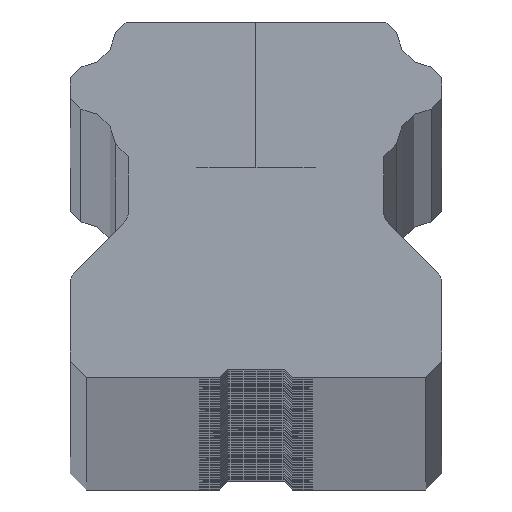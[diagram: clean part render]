
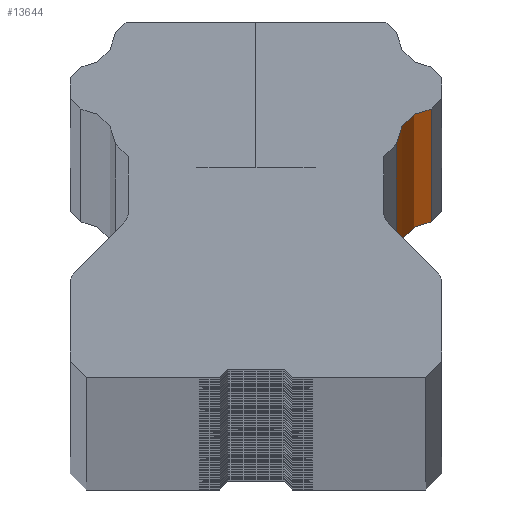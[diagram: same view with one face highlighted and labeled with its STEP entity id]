
A CAD part, top view. The second image highlights one B-rep face of the part: STEP entity #13644.
In plain terms, the highlighted cylindrical face has radius 2.3 mm (diameter 4.6 mm), a partial arc.
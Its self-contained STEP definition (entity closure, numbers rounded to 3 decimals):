
#105 = CARTESIAN_POINT ( 'NONE',  ( 11.68, 2.578, 2000. ) ) ;
#828 = CARTESIAN_POINT ( 'NONE',  ( 11.536, 4.873, -2000. ) ) ;
#853 = DIRECTION ( 'NONE',  ( 1., 0., 0. ) ) ;
#1836 = CARTESIAN_POINT ( 'NONE',  ( 11.536, 4.873, 2000. ) ) ;
#2323 = EDGE_LOOP ( 'NONE', ( #10622, #16834, #10240, #19731 ) ) ;
#3037 = CIRCLE ( 'NONE', #18007, 2.3 ) ;
#3547 = AXIS2_PLACEMENT_3D ( 'NONE', #18817, #6781, #9538 ) ;
#3830 = VERTEX_POINT ( 'NONE', #19337 ) ;
#4689 = EDGE_CURVE ( 'NONE', #13426, #6715, #5508, .T. ) ;
#4815 = CARTESIAN_POINT ( 'NONE',  ( 9.384, 2.722, -2000. ) ) ;
#5382 = EDGE_CURVE ( 'NONE', #6715, #10517, #3037, .T. ) ;
#5508 = LINE ( 'NONE', #17939, #19603 ) ;
#5926 = DIRECTION ( 'NONE',  ( -1., 0., 0. ) ) ;
#6715 = VERTEX_POINT ( 'NONE', #4815 ) ;
#6781 = DIRECTION ( 'NONE',  ( 0., 0., -1. ) ) ;
#7546 = FACE_OUTER_BOUND ( 'NONE', #2323, .T. ) ;
#7739 = DIRECTION ( 'NONE',  ( 0., 0., -1. ) ) ;
#9538 = DIRECTION ( 'NONE',  ( 1., 0., 0. ) ) ;
#9638 = AXIS2_PLACEMENT_3D ( 'NONE', #105, #13769, #5926 ) ;
#10132 = CARTESIAN_POINT ( 'NONE',  ( 11.68, 2.578, -2000. ) ) ;
#10240 = ORIENTED_EDGE ( 'NONE', *, *, #17640, .F. ) ;
#10517 = VERTEX_POINT ( 'NONE', #828 ) ;
#10622 = ORIENTED_EDGE ( 'NONE', *, *, #5382, .T. ) ;
#11945 = DIRECTION ( 'NONE',  ( 0., 0., -1. ) ) ;
#12067 = EDGE_CURVE ( 'NONE', #3830, #10517, #14252, .T. ) ;
#12330 = CIRCLE ( 'NONE', #3547, 2.3 ) ;
#12444 = CYLINDRICAL_SURFACE ( 'NONE', #9638, 2.3 ) ;
#13426 = VERTEX_POINT ( 'NONE', #14181 ) ;
#13644 = ADVANCED_FACE ( 'NONE', ( #7546 ), #12444, .F. ) ;
#13769 = DIRECTION ( 'NONE',  ( 0., 0., -1. ) ) ;
#14181 = CARTESIAN_POINT ( 'NONE',  ( 9.384, 2.722, 2000. ) ) ;
#14252 = LINE ( 'NONE', #1836, #15763 ) ;
#15014 = DIRECTION ( 'NONE',  ( 0., 0., -1. ) ) ;
#15763 = VECTOR ( 'NONE', #7739, 1000. ) ;
#16834 = ORIENTED_EDGE ( 'NONE', *, *, #12067, .F. ) ;
#17640 = EDGE_CURVE ( 'NONE', #13426, #3830, #12330, .T. ) ;
#17939 = CARTESIAN_POINT ( 'NONE',  ( 9.384, 2.722, 2000. ) ) ;
#18007 = AXIS2_PLACEMENT_3D ( 'NONE', #10132, #15014, #853 ) ;
#18817 = CARTESIAN_POINT ( 'NONE',  ( 11.68, 2.578, 2000. ) ) ;
#19337 = CARTESIAN_POINT ( 'NONE',  ( 11.536, 4.873, 2000. ) ) ;
#19603 = VECTOR ( 'NONE', #11945, 1000. ) ;
#19731 = ORIENTED_EDGE ( 'NONE', *, *, #4689, .T. ) ;
